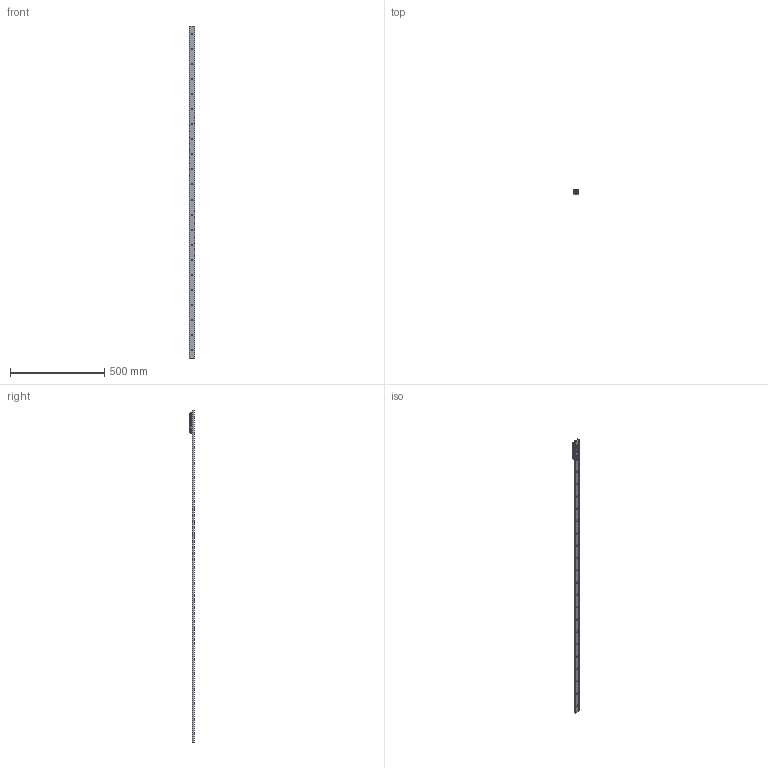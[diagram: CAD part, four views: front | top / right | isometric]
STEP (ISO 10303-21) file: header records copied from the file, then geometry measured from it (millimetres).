
FILE_DESCRIPTION( ( 'STEP AP214' ), '1' );
FILE_NAME( 'p:/temp/worker_24/temp/exporttempdir_5160_102_0QB94/format_2/TGV-01760_1_RV28G-3.stp', '2020-11-20T16:37:01', ( 'License CC BY-ND 4.0' ), ( 'CADENAS' ), ' ', 'PARTsolutions', ' ' );
FILE_SCHEMA( ( 'AUTOMOTIVE_DESIGN { 1 0 10303 214 1 1 1 1 }' ) );
Length unit declared in the file: millimetre
Products named in the file (6): TGV-01760/1/RV28G-3; _TGV28-1760-(3-1); _RV28G-3-slider; _RGNV28R; _RGAV28R; _WR28G-01
Assembly tree (7 placements, depth 2):
  TGV-01760/1/RV28G-3
    _TGV28-1760-(3-1)
    _RV28G-3-slider
    _RGNV28R  x2
    _RGAV28R
    _WR28G-01  x2
Bounding box: 28 x 24 x 1760 mm (x, y, z)
Volume: 290601.4 mm3; surface area: 185726 mm2
Topology: 7 solids, 7 shells, 1056 faces, 2755 edges, 1795 vertices
Faces by surface type: plane 657, cylinder 302, cone 62, bspline 26, torus 9
Full cylindrical faces by diameter (mm): 1.27 x4, 2 x2, 2.5 x6, 4 x4, 4.134 x4, 4.2 x3, 5 x3, 5.5 x3, 5.75 x22, 7 x5, 7.5 x1, 8 x6, 10.8 x3, 17 x3, 20.75 x6
Entity records: 25591 total; most frequent: CARTESIAN_POINT 4051, DIRECTION 3420, ORIENTED_EDGE 3126, EDGE_CURVE 1563, AXIS2_PLACEMENT_3D 1315, VERTEX_POINT 1095, EDGE_LOOP 923, LINE 790
